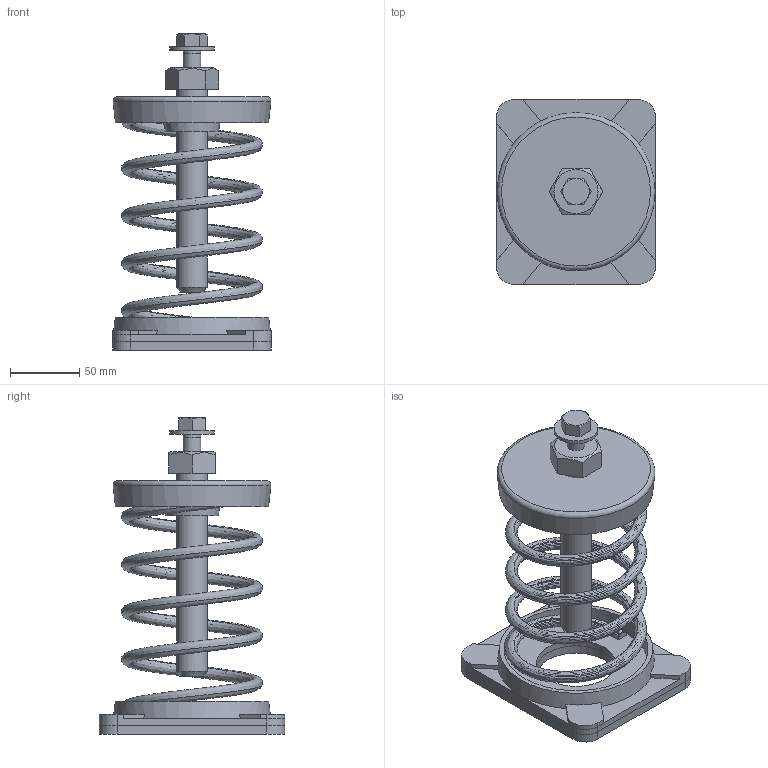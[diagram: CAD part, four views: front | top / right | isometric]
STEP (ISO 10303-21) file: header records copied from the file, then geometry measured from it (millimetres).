
FILE_DESCRIPTION(/* description */ (''),/* implementation_level */ '2;1');
FILE_NAME(/* name */ 'C:\001_Work\Designs\SLF ASSEMBLIES\SLF-128.stp',/* time_stamp */ '2016-01-10T15:14:11-05:00',/* author */ ('rramoutar'),/* organization */ ('Mason Industries Inc.'),/* preprocessor_version */ 'ST-DEVELOPER v15.6',/* originating_system */ 'Autodesk Inventor 2015',/* authorisation */ '');
FILE_SCHEMA (('CONFIG_CONTROL_DESIGN'));
Length unit declared in the file: inch
Products named in the file (1): SLF-128
Bounding box: 114.3 x 133.35 x 227.69 mm (x, y, z)
Volume: 363647.5 mm3; surface area: 185895.9 mm2
Topology: 7 solids, 7 shells, 138 faces, 321 edges, 206 vertices
Faces by surface type: plane 73, cylinder 27, bspline 22, cone 14, torus 2
Full cylindrical faces by diameter (mm): 9.525 x4, 12.7 x2, 13.487 x1, 19.05 x1, 19.447 x1, 22.225 x1, 31.75 x1, 57.15 x2, 103.981 x2
Entity records: 11428 total; most frequent: CARTESIAN_POINT 8373, ORIENTED_EDGE 580, DIRECTION 534, EDGE_CURVE 290, AXIS2_PLACEMENT_3D 201, VERTEX_POINT 200, EDGE_LOOP 182, STYLED_ITEM 145
